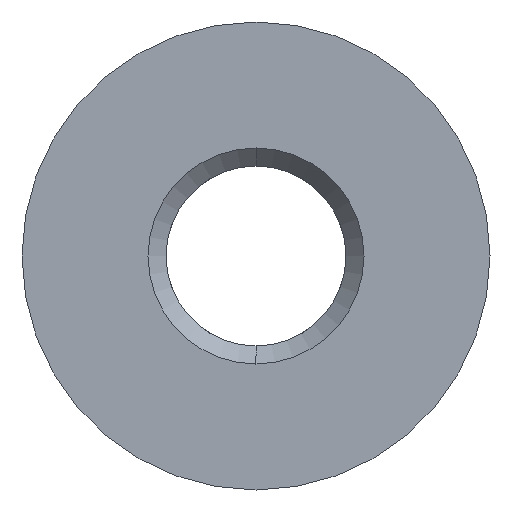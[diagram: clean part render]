
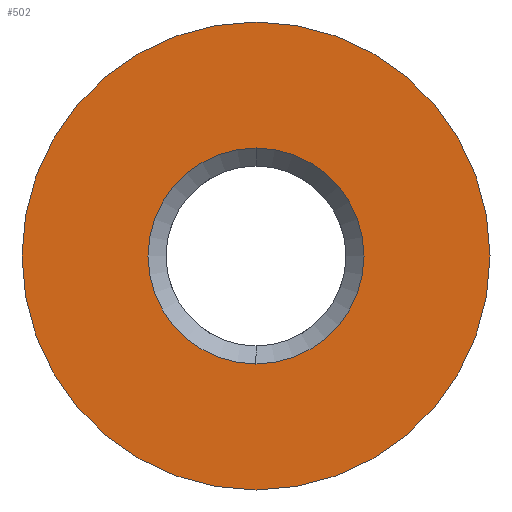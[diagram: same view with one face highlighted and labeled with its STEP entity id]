
A CAD part, left-side view. The second image highlights one B-rep face of the part: STEP entity #502.
In plain terms, the highlighted planar face has unit normal (-1, 0, 0).
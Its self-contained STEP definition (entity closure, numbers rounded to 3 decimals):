
#11 = AXIS2_PLACEMENT_3D ( 'NONE', #209, #324, #135 ) ;
#34 = AXIS2_PLACEMENT_3D ( 'NONE', #270, #541, #259 ) ;
#48 = CIRCLE ( 'NONE', #552, 1.5 ) ;
#62 = EDGE_CURVE ( 'NONE', #548, #792, #838, .T. ) ;
#75 = CARTESIAN_POINT ( 'NONE',  ( -6.58, 0., 3.25 ) ) ;
#113 = DIRECTION ( 'NONE',  ( 0., 0., 1. ) ) ;
#135 = DIRECTION ( 'NONE',  ( 0., 0., 1. ) ) ;
#138 = ORIENTED_EDGE ( 'NONE', *, *, #759, .T. ) ;
#169 = CARTESIAN_POINT ( 'NONE',  ( -6.58, 0., 0. ) ) ;
#175 = DIRECTION ( 'NONE',  ( 1., 0., 0. ) ) ;
#196 = CIRCLE ( 'NONE', #441, 1.5 ) ;
#209 = CARTESIAN_POINT ( 'NONE',  ( -6.58, 1.25, 0. ) ) ;
#247 = CARTESIAN_POINT ( 'NONE',  ( -6.58, 0., 0. ) ) ;
#259 = DIRECTION ( 'NONE',  ( 0., 0., -1. ) ) ;
#270 = CARTESIAN_POINT ( 'NONE',  ( -6.58, 0., 0. ) ) ;
#273 = EDGE_LOOP ( 'NONE', ( #859, #706 ) ) ;
#324 = DIRECTION ( 'NONE',  ( -1., 0., 0. ) ) ;
#342 = ORIENTED_EDGE ( 'NONE', *, *, #764, .T. ) ;
#384 = CARTESIAN_POINT ( 'NONE',  ( -6.58, 0., 1.5 ) ) ;
#388 = FACE_BOUND ( 'NONE', #400, .T. ) ;
#397 = VERTEX_POINT ( 'NONE', #384 ) ;
#400 = EDGE_LOOP ( 'NONE', ( #342, #138 ) ) ;
#440 = DIRECTION ( 'NONE',  ( 1., 0., 0. ) ) ;
#441 = AXIS2_PLACEMENT_3D ( 'NONE', #788, #528, #594 ) ;
#467 = AXIS2_PLACEMENT_3D ( 'NONE', #169, #440, #712 ) ;
#502 = ADVANCED_FACE ( 'NONE', ( #388, #522 ), #799, .T. ) ;
#522 = FACE_OUTER_BOUND ( 'NONE', #273, .T. ) ;
#528 = DIRECTION ( 'NONE',  ( 1., 0., 0. ) ) ;
#539 = VERTEX_POINT ( 'NONE', #670 ) ;
#541 = DIRECTION ( 'NONE',  ( 1., 0., 0. ) ) ;
#548 = VERTEX_POINT ( 'NONE', #75 ) ;
#552 = AXIS2_PLACEMENT_3D ( 'NONE', #247, #175, #113 ) ;
#594 = DIRECTION ( 'NONE',  ( 0., 0., 1. ) ) ;
#652 = EDGE_CURVE ( 'NONE', #792, #548, #846, .T. ) ;
#670 = CARTESIAN_POINT ( 'NONE',  ( -6.58, 0., -1.5 ) ) ;
#706 = ORIENTED_EDGE ( 'NONE', *, *, #62, .F. ) ;
#712 = DIRECTION ( 'NONE',  ( 0., 0., -1. ) ) ;
#759 = EDGE_CURVE ( 'NONE', #539, #397, #196, .T. ) ;
#764 = EDGE_CURVE ( 'NONE', #397, #539, #48, .T. ) ;
#788 = CARTESIAN_POINT ( 'NONE',  ( -6.58, 0., 0. ) ) ;
#792 = VERTEX_POINT ( 'NONE', #868 ) ;
#799 = PLANE ( 'NONE',  #11 ) ;
#838 = CIRCLE ( 'NONE', #34, 3.25 ) ;
#846 = CIRCLE ( 'NONE', #467, 3.25 ) ;
#859 = ORIENTED_EDGE ( 'NONE', *, *, #652, .F. ) ;
#868 = CARTESIAN_POINT ( 'NONE',  ( -6.58, 0., -3.25 ) ) ;
